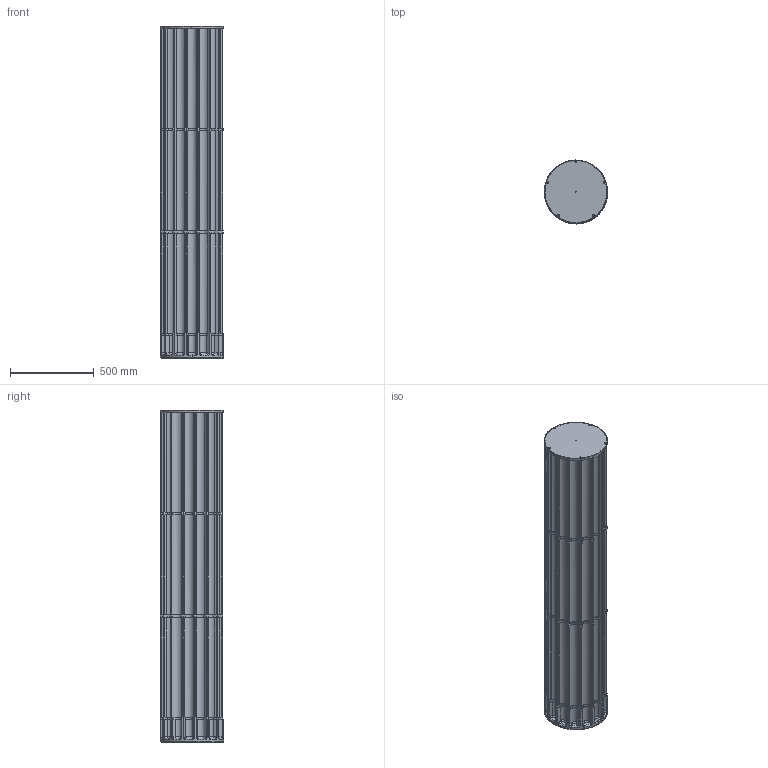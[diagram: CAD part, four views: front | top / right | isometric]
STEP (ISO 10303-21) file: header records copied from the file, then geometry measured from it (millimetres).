
FILE_DESCRIPTION(/* description */ (''),/* implementation_level */ '2;1');
FILE_NAME(/* name */ 'T148__~2',/* time_stamp */ '2024-07-03T14:45:21+02:00',/* author */ (''),/* organization */ (''),/* preprocessor_version */ 'ST-DEVELOPER v16.5',/* originating_system */ '',/* authorisation */ '');
FILE_SCHEMA (('AUTOMOTIVE_DESIGN'));
Products named in the file (1): Document
Bounding box: 377.61 x 378.51 x 1979.5 mm (x, y, z)
Volume: 29082949.8 mm3; surface area: 9316113 mm2
Topology: 116 solids, 116 shells, 4888 faces, 11348 edges, 6193 vertices
Faces by surface type: bspline 2754, plane 2134
Entity records: 158909 total; most frequent: CARTESIAN_POINT 90303, ORIENTED_EDGE 21646, EDGE_CURVE 10823, B_SPLINE_CURVE_WITH_KNOTS 7817, VERTEX_POINT 6193, EDGE_LOOP 4918, ADVANCED_FACE 4888, FACE_OUTER_BOUND 4888
